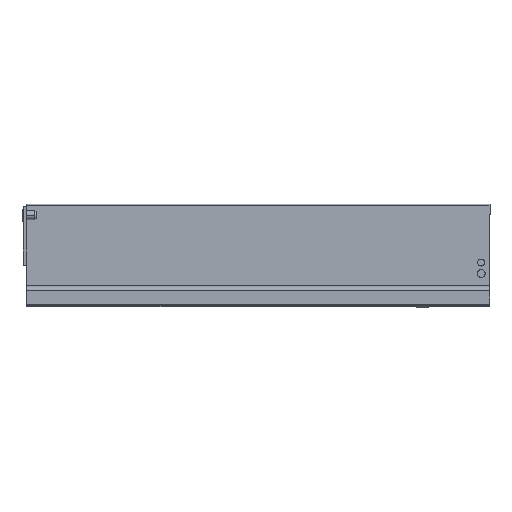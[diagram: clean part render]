
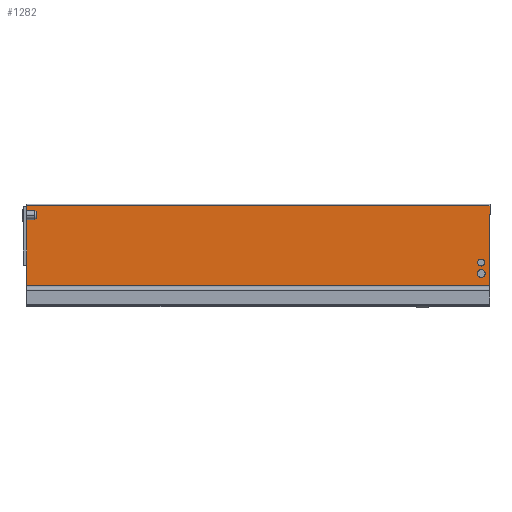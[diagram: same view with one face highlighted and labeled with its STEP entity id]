
A CAD part, left-side view. The second image highlights one B-rep face of the part: STEP entity #1282.
In plain terms, the highlighted planar face has unit normal (-1, 0, 0).
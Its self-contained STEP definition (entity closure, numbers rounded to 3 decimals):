
#242 = DIRECTION ( 'NONE',  ( 0., 0., -1. ) ) ;
#254 = EDGE_CURVE ( 'NONE', #2191, #2270, #1891, .T. ) ;
#259 = EDGE_CURVE ( 'NONE', #2118, #2189, #1935, .T. ) ;
#319 = EDGE_CURVE ( 'NONE', #2147, #2073, #1812, .T. ) ;
#320 = EDGE_CURVE ( 'NONE', #2073, #2237, #1809, .T. ) ;
#321 = EDGE_CURVE ( 'NONE', #2280, #2237, #1807, .T. ) ;
#322 = EDGE_CURVE ( 'NONE', #2147, #2280, #1804, .T. ) ;
#323 = EDGE_CURVE ( 'NONE', #2270, #2191, #1801, .T. ) ;
#324 = EDGE_CURVE ( 'NONE', #2189, #2118, #1799, .T. ) ;
#450 = AXIS2_PLACEMENT_3D ( 'NONE', #2106, #2102, #2104 ) ;
#452 = AXIS2_PLACEMENT_3D ( 'NONE', #2043, #2040, #2039 ) ;
#468 = AXIS2_PLACEMENT_3D ( 'NONE', #2335, #2336, #2337 ) ;
#469 = AXIS2_PLACEMENT_3D ( 'NONE', #2338, #2339, #242 ) ;
#529 = AXIS2_PLACEMENT_3D ( 'NONE', #1090, #1080, #1174 ) ;
#878 = ORIENTED_EDGE ( 'NONE', *, *, #324, .F. ) ;
#894 = ORIENTED_EDGE ( 'NONE', *, *, #321, .F. ) ;
#899 = ORIENTED_EDGE ( 'NONE', *, *, #322, .F. ) ;
#902 = ORIENTED_EDGE ( 'NONE', *, *, #259, .F. ) ;
#904 = ORIENTED_EDGE ( 'NONE', *, *, #319, .T. ) ;
#905 = ORIENTED_EDGE ( 'NONE', *, *, #254, .F. ) ;
#913 = ORIENTED_EDGE ( 'NONE', *, *, #320, .T. ) ;
#924 = ORIENTED_EDGE ( 'NONE', *, *, #323, .F. ) ;
#1080 = DIRECTION ( 'NONE',  ( -1., 0., 0. ) ) ;
#1090 = CARTESIAN_POINT ( 'NONE',  ( -21.5, 547., 100. ) ) ;
#1174 = DIRECTION ( 'NONE',  ( 0., 0., -1. ) ) ;
#1249 = PLANE ( 'NONE',  #529 ) ;
#1282 = ADVANCED_FACE ( 'NONE', ( #1557, #1556, #1555 ), #1249, .T. ) ;
#1307 = CARTESIAN_POINT ( 'NONE',  ( -21.5, 0., 100. ) ) ;
#1322 = CARTESIAN_POINT ( 'NONE',  ( -21.5, 10.4, 15.4 ) ) ;
#1329 = CARTESIAN_POINT ( 'NONE',  ( -21.5, 547., 100. ) ) ;
#1345 = CARTESIAN_POINT ( 'NONE',  ( -21.5, 10.4, 24.6 ) ) ;
#1347 = CARTESIAN_POINT ( 'NONE',  ( -21.5, 10.4, 28.9 ) ) ;
#1378 = CARTESIAN_POINT ( 'NONE',  ( -21.5, 0., 5.395 ) ) ;
#1384 = CARTESIAN_POINT ( 'NONE',  ( -21.5, 547., 5.395 ) ) ;
#1413 = CARTESIAN_POINT ( 'NONE',  ( -21.5, 10.4, 37.1 ) ) ;
#1555 = FACE_BOUND ( 'NONE', #1968, .T. ) ;
#1556 = FACE_BOUND ( 'NONE', #1937, .T. ) ;
#1557 = FACE_OUTER_BOUND ( 'NONE', #1909, .T. ) ;
#1799 = CIRCLE ( 'NONE', #469, 4.6 ) ;
#1801 = CIRCLE ( 'NONE', #468, 4.1 ) ;
#1803 = VECTOR ( 'NONE', #2334, 1000. ) ;
#1804 = LINE ( 'NONE', #2333, #1803 ) ;
#1805 = VECTOR ( 'NONE', #2332, 1000. ) ;
#1807 = LINE ( 'NONE', #2331, #1805 ) ;
#1808 = VECTOR ( 'NONE', #2330, 1000. ) ;
#1809 = LINE ( 'NONE', #2329, #1808 ) ;
#1811 = VECTOR ( 'NONE', #2328, 1000. ) ;
#1812 = LINE ( 'NONE', #2327, #1811 ) ;
#1891 = CIRCLE ( 'NONE', #450, 4.1 ) ;
#1909 = EDGE_LOOP ( 'NONE', ( #904, #913, #894, #899 ) ) ;
#1935 = CIRCLE ( 'NONE', #452, 4.6 ) ;
#1937 = EDGE_LOOP ( 'NONE', ( #924, #905 ) ) ;
#1968 = EDGE_LOOP ( 'NONE', ( #878, #902 ) ) ;
#2039 = DIRECTION ( 'NONE',  ( 0., 0., -1. ) ) ;
#2040 = DIRECTION ( 'NONE',  ( -1., 0., 0. ) ) ;
#2043 = CARTESIAN_POINT ( 'NONE',  ( -21.5, 10.4, 20. ) ) ;
#2073 = VERTEX_POINT ( 'NONE', #1384 ) ;
#2102 = DIRECTION ( 'NONE',  ( -1., 0., 0. ) ) ;
#2104 = DIRECTION ( 'NONE',  ( 0., 0., -1. ) ) ;
#2106 = CARTESIAN_POINT ( 'NONE',  ( -21.5, 10.4, 33. ) ) ;
#2118 = VERTEX_POINT ( 'NONE', #1322 ) ;
#2147 = VERTEX_POINT ( 'NONE', #1329 ) ;
#2189 = VERTEX_POINT ( 'NONE', #1345 ) ;
#2191 = VERTEX_POINT ( 'NONE', #1347 ) ;
#2237 = VERTEX_POINT ( 'NONE', #1378 ) ;
#2270 = VERTEX_POINT ( 'NONE', #1413 ) ;
#2280 = VERTEX_POINT ( 'NONE', #1307 ) ;
#2327 = CARTESIAN_POINT ( 'NONE',  ( -21.5, 547., 100. ) ) ;
#2328 = DIRECTION ( 'NONE',  ( 0., 0., -1. ) ) ;
#2329 = CARTESIAN_POINT ( 'NONE',  ( -21.5, 144.577, 5.395 ) ) ;
#2330 = DIRECTION ( 'NONE',  ( 0., -1., 0. ) ) ;
#2331 = CARTESIAN_POINT ( 'NONE',  ( -21.5, 0., 100. ) ) ;
#2332 = DIRECTION ( 'NONE',  ( 0., 0., -1. ) ) ;
#2333 = CARTESIAN_POINT ( 'NONE',  ( -21.5, 144.577, 100. ) ) ;
#2334 = DIRECTION ( 'NONE',  ( 0., -1., 0. ) ) ;
#2335 = CARTESIAN_POINT ( 'NONE',  ( -21.5, 10.4, 33. ) ) ;
#2336 = DIRECTION ( 'NONE',  ( -1., 0., 0. ) ) ;
#2337 = DIRECTION ( 'NONE',  ( 0., 0., -1. ) ) ;
#2338 = CARTESIAN_POINT ( 'NONE',  ( -21.5, 10.4, 20. ) ) ;
#2339 = DIRECTION ( 'NONE',  ( -1., 0., 0. ) ) ;
